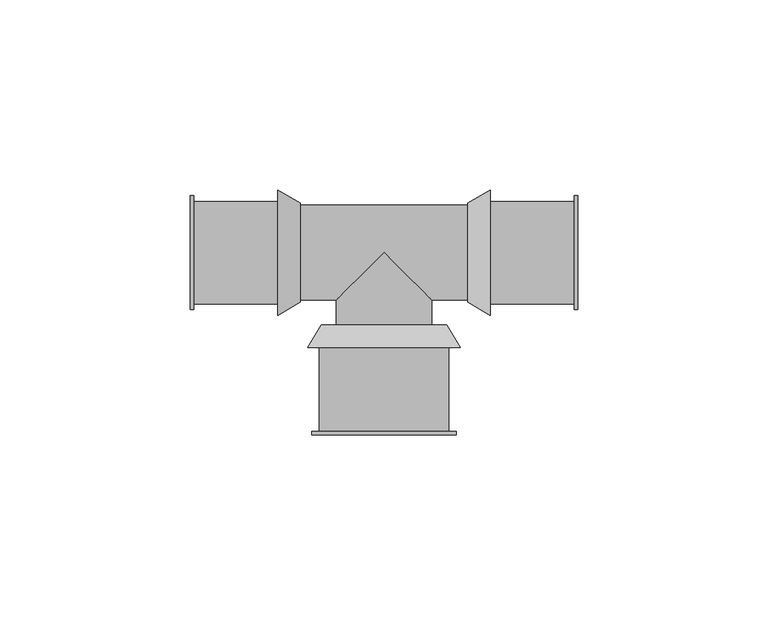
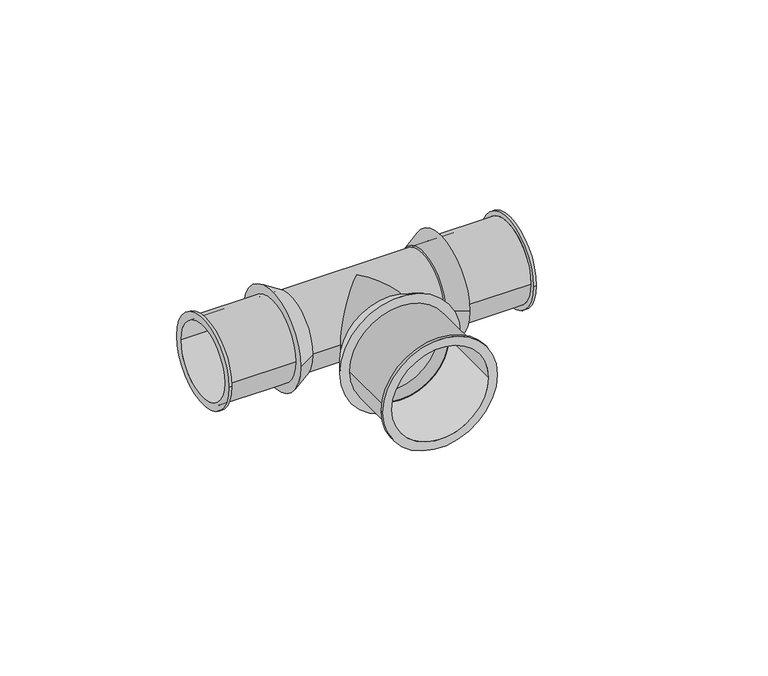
"""IFC4 building model written with IfcOpenShell, lengths in millimetres: pipe fitting geometry, SuperPipe_Tee_SPressPlus : SuperPipe_Tee_SPressPlus."""

from ifc_helpers import new_model, si_unit, point, frame, origin, origin_2d, place, context, project, spatial, polyline, circle_curve, ellipse_curve, trimmed, segment, composite_curve, outline, extrude, source, transform, mapped, element, save
from ifc_brep_helpers import plane_surface, cylinder_surface, revolved_surface, advanced_brep


def pipe_fitting_49668751(model_context):
    return source(origin(), model_context, "Body", "SolidModel", [
        advanced_brep(
        [(-51.0, -15.0, 0.0), (-51.0, 15.0, 0.0), (-51.0, -12.5, 0.0), (-51.0, 12.5, 0.0), (-28.0, -13.5, 0.0), (-28.0, 13.5, 0.0), (-28.0, -12.5, 0.0), (-28.0, 12.5, 0.0), (-50.0, -12.5, 0.0), (-50.0, 12.5, 0.0), (-50.0, 13.5, 0.0), (-50.0, -13.5, 0.0), (-50.0, -15.0, 0.0), (-50.0, 15.0, 0.0)],
        [
            (0, 1, circle_curve(frame((-51.0, 0.0, 0.0), z_axis=(-1.0, 0.0, 0.0), x_axis=(0.0, 1.0, 0.0)), 15.0)),
            (1, 0, circle_curve(frame((-51.0, 0.0, 0.0), z_axis=(-1.0, 0.0, 0.0), x_axis=(0.0, 1.0, 0.0)), 15.0)),
            (2, 3, circle_curve(frame((-51.0, 0.0, 0.0), z_axis=(1.0, 0.0, 0.0), x_axis=(0.0, 1.0, 0.0)), 12.5)),
            (3, 2, circle_curve(frame((-51.0, 0.0, 0.0), z_axis=(1.0, 0.0, 0.0), x_axis=(0.0, 1.0, 0.0)), 12.5)),
            (4, 5, circle_curve(frame((-28.0, 0.0, 0.0), z_axis=(1.0, 0.0, 0.0), x_axis=(0.0, 1.0, 0.0)), 13.5)),
            (5, 4, circle_curve(frame((-28.0, 0.0, 0.0), z_axis=(1.0, 0.0, 0.0), x_axis=(0.0, 1.0, 0.0)), 13.5)),
            (6, 7, circle_curve(frame((-28.0, 0.0, 0.0), z_axis=(-1.0, 0.0, 0.0), x_axis=(0.0, 1.0, 0.0)), 12.5)),
            (7, 6, circle_curve(frame((-28.0, 0.0, 0.0), z_axis=(-1.0, 0.0, 0.0), x_axis=(0.0, 1.0, 0.0)), 12.5)),
            (2, 8),
            (8, 6),
            (7, 9),
            (9, 3),
            (5, 10),
            (10, 11, circle_curve(frame((-50.0, 0.0, 0.0), z_axis=(1.0, 0.0, 0.0), x_axis=(0.0, 1.0, 0.0)), 13.5)),
            (11, 4),
            (11, 10, circle_curve(frame((-50.0, 0.0, 0.0), z_axis=(1.0, 0.0, 0.0), x_axis=(0.0, 1.0, 0.0)), 13.5)),
            (12, 13, circle_curve(frame((-50.0, 0.0, 0.0), z_axis=(1.0, 0.0, 0.0), x_axis=(0.0, 1.0, 0.0)), 15.0)),
            (13, 12, circle_curve(frame((-50.0, 0.0, 0.0), z_axis=(1.0, 0.0, 0.0), x_axis=(0.0, 1.0, 0.0)), 15.0)),
            (0, 12),
            (13, 1),
        ],
        [
            plane_surface(frame((-51.0, 0.0, 0.0), z_axis=(-1.0, 0.0, 0.0), x_axis=(0.0, 0.0, 1.0))),
            plane_surface(frame((-28.0, 0.0, 0.0), z_axis=(1.0, 0.0, 0.0), x_axis=(0.0, 0.0, 1.0))),
            revolved_surface(polyline([(-28.0, 12.5, 0.0), (-51.0, 12.5, 0.0)]), (-51.0, 0.0, 0.0), (1.0, 0.0, 0.0)),
            cylinder_surface(frame((-51.0, 0.0, 0.0), z_axis=(-1.0, 0.0, 0.0), x_axis=(0.0, 1.0, 0.0)), 13.5),
            plane_surface(frame((-50.0, 0.0, 0.0), z_axis=(1.0, 0.0, 0.0), x_axis=(0.0, 0.0, 1.0))),
            cylinder_surface(frame((-51.0, 0.0, 0.0), z_axis=(-1.0, 0.0, 0.0), x_axis=(0.0, 1.0, 0.0)), 15.0),
        ],
        [
            (0, [[1, 2], [3, 4]]),
            (1, [[5, 6], [7, 8]]),
            (2, [[-3, 9, 10, -8, 11, 12]]),
            (2, [[-4, -12, -11, -7, -10, -9]]),
            (3, [[-6, 13, 14, 15]]),
            (3, [[-5, -15, 16, -13]]),
            (4, [[17, 18], [-14, -16]]),
            (5, [[-1, 19, -18, 20]]),
            (5, [[-2, -20, -17, -19]]),
        ],
    ),
        advanced_brep(
        [(28.0, -13.5, 0.0), (28.0, 13.5, 0.0), (28.0, -12.5, 0.0), (28.0, 12.5, 0.0), (51.0, -15.0, 0.0), (51.0, 15.0, 0.0), (51.0, -12.5, 0.0), (51.0, 12.5, 0.0), (50.0, -13.5, 0.0), (50.0, 13.5, 0.0), (50.0, -12.5, 0.0), (50.0, 12.5, 0.0), (50.0, -15.0, 0.0), (50.0, 15.0, 0.0)],
        [
            (0, 1, circle_curve(frame((28.0, 0.0, 0.0), z_axis=(-1.0, 0.0, 0.0), x_axis=(0.0, 1.0, 0.0)), 13.5)),
            (1, 0, circle_curve(frame((28.0, 0.0, 0.0), z_axis=(-1.0, 0.0, 0.0), x_axis=(0.0, 1.0, 0.0)), 13.5)),
            (2, 3, circle_curve(frame((28.0, 0.0, 0.0), z_axis=(1.0, 0.0, 0.0), x_axis=(0.0, 1.0, 0.0)), 12.5)),
            (3, 2, circle_curve(frame((28.0, 0.0, 0.0), z_axis=(1.0, 0.0, 0.0), x_axis=(0.0, 1.0, 0.0)), 12.5)),
            (4, 5, circle_curve(frame((51.0, 0.0, 0.0), z_axis=(1.0, 0.0, 0.0), x_axis=(0.0, 1.0, 0.0)), 15.0)),
            (5, 4, circle_curve(frame((51.0, 0.0, 0.0), z_axis=(1.0, 0.0, 0.0), x_axis=(0.0, 1.0, 0.0)), 15.0)),
            (6, 7, circle_curve(frame((51.0, 0.0, 0.0), z_axis=(-1.0, 0.0, 0.0), x_axis=(0.0, 1.0, 0.0)), 12.5)),
            (7, 6, circle_curve(frame((51.0, 0.0, 0.0), z_axis=(-1.0, 0.0, 0.0), x_axis=(0.0, 1.0, 0.0)), 12.5)),
            (0, 8),
            (8, 9, circle_curve(frame((50.0, 0.0, 0.0), z_axis=(-1.0, 0.0, 0.0), x_axis=(0.0, 1.0, 0.0)), 13.5)),
            (9, 1),
            (9, 8, circle_curve(frame((50.0, 0.0, 0.0), z_axis=(-1.0, 0.0, 0.0), x_axis=(0.0, 1.0, 0.0)), 13.5)),
            (2, 10),
            (10, 6),
            (7, 11),
            (11, 3),
            (12, 13, circle_curve(frame((50.0, 0.0, 0.0), z_axis=(-1.0, 0.0, 0.0), x_axis=(0.0, 1.0, 0.0)), 15.0)),
            (13, 12, circle_curve(frame((50.0, 0.0, 0.0), z_axis=(-1.0, 0.0, 0.0), x_axis=(0.0, 1.0, 0.0)), 15.0)),
            (12, 4),
            (5, 13),
        ],
        [
            plane_surface(frame((28.0, 0.0, 0.0), z_axis=(-1.0, 0.0, 0.0), x_axis=(0.0, 0.0, 1.0))),
            plane_surface(frame((51.0, 0.0, 0.0), z_axis=(1.0, 0.0, 0.0), x_axis=(0.0, 0.0, 1.0))),
            cylinder_surface(frame((28.0, 0.0, 0.0), z_axis=(-1.0, 0.0, 0.0), x_axis=(0.0, 1.0, 0.0)), 13.5),
            revolved_surface(polyline([(51.0, 12.5, 0.0), (28.0, 12.5, 0.0)]), (28.0, 0.0, 0.0), (1.0, 0.0, 0.0)),
            plane_surface(frame((50.0, 0.0, 0.0), z_axis=(-1.0, 0.0, 0.0), x_axis=(0.0, 0.0, 1.0))),
            cylinder_surface(frame((50.0, 0.0, 0.0), z_axis=(-1.0, 0.0, 0.0), x_axis=(0.0, 1.0, 0.0)), 15.0),
        ],
        [
            (0, [[1, 2], [3, 4]]),
            (1, [[5, 6], [7, 8]]),
            (2, [[-1, 9, 10, 11]]),
            (2, [[-2, -11, 12, -9]]),
            (3, [[-3, 13, 14, -8, 15, 16]]),
            (3, [[-4, -16, -15, -7, -14, -13]]),
            (4, [[17, 18], [-10, -12]]),
            (5, [[-17, 19, -6, 20]]),
            (5, [[-18, -20, -5, -19]]),
        ],
    ),
        advanced_brep(
        [(-20.0, -25.0, 0.0), (20.0, -25.0, 0.0), (-16.0, -25.0, 0.0), (16.0, -25.0, 0.0), (-16.5, -19.0, 0.0), (16.5, -19.0, 0.0), (-16.0, -20.0, 0.0), (16.0, -20.0, 0.0)],
        [
            (0, 1, circle_curve(frame((0.0, -25.0, 0.0), z_axis=(0.0, -1.0, 0.0), x_axis=(-1.0, 0.0, 0.0)), 20.0)),
            (1, 0, circle_curve(frame((0.0, -25.0, 0.0), z_axis=(0.0, -1.0, 0.0), x_axis=(1.0, 0.0, 0.0)), 20.0)),
            (2, 3, circle_curve(frame((0.0, -25.0, 0.0), z_axis=(0.0, 1.0, 0.0), x_axis=(1.0, 0.0, 0.0)), 16.0)),
            (3, 2, circle_curve(frame((0.0, -25.0, 0.0), z_axis=(0.0, 1.0, 0.0), x_axis=(1.0, 0.0, 0.0)), 16.0)),
            (4, 5, circle_curve(frame((0.0, -19.0, 0.0), z_axis=(0.0, 1.0, 0.0), x_axis=(1.0, 0.0, 0.0)), 16.5)),
            (5, 4, circle_curve(frame((0.0, -19.0, 0.0), z_axis=(0.0, 1.0, 0.0), x_axis=(-1.0, 0.0, 0.0)), 16.5)),
            (0, 4),
            (5, 1),
            (6, 7, circle_curve(frame((0.0, -20.0, 0.0), z_axis=(0.0, -1.0, 0.0), x_axis=(1.0, 0.0, 0.0)), 16.0)),
            (7, 6, circle_curve(frame((0.0, -20.0, 0.0), z_axis=(0.0, -1.0, 0.0), x_axis=(1.0, 0.0, 0.0)), 16.0)),
            (7, 3),
            (2, 6),
        ],
        [
            plane_surface(frame((0.0, -25.0, 0.0), z_axis=(0.0, -1.0, 0.0), x_axis=(0.0, 0.0, -1.0))),
            plane_surface(frame((0.0, -19.0, 0.0), z_axis=(0.0, 1.0, 0.0), x_axis=(0.0, 0.0, -1.0))),
            revolved_surface(polyline([(16.500000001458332, -19.0, 0.0), (20.0, -25.0, 0.0)]), (0.0, 9.2857143, 0.0), (0.0, -1.0, 0.0)),
            revolved_surface(polyline([(-16.500000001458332, -19.0, 0.0), (-20.0, -25.0, 0.0)]), (0.0, 9.2857143, 0.0), (0.0, -1.0, 0.0)),
            plane_surface(frame((0.0, -20.0, 0.0), z_axis=(0.0, -1.0, 0.0), x_axis=(0.0, 0.0, 1.0))),
            revolved_surface(polyline([(16.0, -20.0, 0.0), (16.0, -25.0, 0.0)]), (0.0, -20.0, 0.0), (0.0, 1.0, 0.0)),
        ],
        [
            (0, [[1, 2], [3, 4]]),
            (1, [[5, 6]]),
            (2, [[-1, 7, -6, 8]]),
            (3, [[-2, -8, -5, -7]]),
            (4, [[9, 10]]),
            (5, [[-10, 11, -3, 12]]),
            (5, [[-9, -12, -4, -11]]),
        ],
    ),
        advanced_brep(
        [(28.0, -16.5, 0.0), (28.0, 16.5, 0.0), (28.0, 12.5, 0.0), (28.0, -12.5, 0.0), (22.0, -13.0, 0.0), (22.0, 13.0, 0.0), (23.0, -12.5, 0.0), (23.0, 12.5, 0.0)],
        [
            (0, 1, circle_curve(frame((28.0, 0.0, 0.0), z_axis=(1.0, 0.0, 0.0), x_axis=(0.0, -1.0, 0.0)), 16.5)),
            (1, 0, circle_curve(frame((28.0, 0.0, 0.0), z_axis=(1.0, 0.0, 0.0), x_axis=(0.0, 1.0, 0.0)), 16.5)),
            (2, 3, circle_curve(frame((28.0, 0.0, 0.0), z_axis=(-1.0, 0.0, 0.0), x_axis=(0.0, 1.0, 0.0)), 12.5)),
            (3, 2, circle_curve(frame((28.0, 0.0, 0.0), z_axis=(-1.0, 0.0, 0.0), x_axis=(0.0, 1.0, 0.0)), 12.5)),
            (4, 5, circle_curve(frame((22.0, 0.0, 0.0), z_axis=(-1.0, 0.0, 0.0), x_axis=(0.0, 1.0, 0.0)), 13.0)),
            (5, 4, circle_curve(frame((22.0, 0.0, 0.0), z_axis=(-1.0, 0.0, 0.0), x_axis=(0.0, -1.0, 0.0)), 13.0)),
            (0, 4),
            (5, 1),
            (6, 7, circle_curve(frame((23.0, 0.0, 0.0), z_axis=(1.0, 0.0, 0.0), x_axis=(0.0, 1.0, 0.0)), 12.5)),
            (7, 6, circle_curve(frame((23.0, 0.0, 0.0), z_axis=(1.0, 0.0, 0.0), x_axis=(0.0, 1.0, 0.0)), 12.5)),
            (6, 3),
            (2, 7),
        ],
        [
            plane_surface(frame((28.0, 0.0, 0.0), z_axis=(1.0, 0.0, 0.0), x_axis=(0.0, 0.0, -1.0))),
            plane_surface(frame((22.0, 0.0, 0.0), z_axis=(-1.0, 0.0, 0.0), x_axis=(0.0, 0.0, -1.0))),
            revolved_surface(polyline([(22.0, 13.000000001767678, 0.0), (28.0, 16.5, 0.0)]), (-0.2857143, 0.0, 0.0), (1.0, 0.0, 0.0)),
            revolved_surface(polyline([(22.0, -13.000000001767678, 0.0), (28.0, -16.5, 0.0)]), (-0.2857143, 0.0, 0.0), (1.0, 0.0, 0.0)),
            plane_surface(frame((23.0, 12.5, 0.0), z_axis=(1.0, 0.0, 0.0), x_axis=(0.0, 0.0, -1.0))),
            revolved_surface(polyline([(28.0, 12.5, 0.0), (23.0, 12.5, 0.0)]), (23.0, 0.0, 0.0), (1.0, 0.0, 0.0)),
        ],
        [
            (0, [[1, 2], [3, 4]]),
            (1, [[5, 6]]),
            (2, [[-1, 7, -6, 8]]),
            (3, [[-2, -8, -5, -7]]),
            (4, [[9, 10]]),
            (5, [[-9, 11, -3, 12]]),
            (5, [[-10, -12, -4, -11]]),
        ],
    ),
        advanced_brep(
        [(-22.0, -13.0, 0.0), (-22.0, 13.0, 0.0), (-28.0, -16.5, 0.0), (-28.0, 16.5, 0.0), (-28.0, -12.5, 0.0), (-28.0, 12.5, 0.0), (-23.0, -12.5, 0.0), (-23.0, 12.5, 0.0)],
        [
            (0, 1, circle_curve(frame((-22.0, 0.0, 0.0), z_axis=(1.0, 0.0, 0.0), x_axis=(0.0, -1.0, 0.0)), 13.0)),
            (1, 0, circle_curve(frame((-22.0, 0.0, 0.0), z_axis=(1.0, 0.0, 0.0), x_axis=(0.0, 1.0, 0.0)), 13.0)),
            (2, 3, circle_curve(frame((-28.0, 0.0, 0.0), z_axis=(-1.0, 0.0, 0.0), x_axis=(0.0, 1.0, 0.0)), 16.5)),
            (3, 2, circle_curve(frame((-28.0, 0.0, 0.0), z_axis=(-1.0, 0.0, 0.0), x_axis=(0.0, -1.0, 0.0)), 16.5)),
            (4, 5, circle_curve(frame((-28.0, 0.0, 0.0), z_axis=(1.0, 0.0, 0.0), x_axis=(0.0, 1.0, 0.0)), 12.5)),
            (5, 4, circle_curve(frame((-28.0, 0.0, 0.0), z_axis=(1.0, 0.0, 0.0), x_axis=(0.0, 1.0, 0.0)), 12.5)),
            (0, 2),
            (3, 1),
            (6, 7, circle_curve(frame((-23.0, 0.0, 0.0), z_axis=(-1.0, 0.0, 0.0), x_axis=(0.0, 1.0, 0.0)), 12.5)),
            (7, 6, circle_curve(frame((-23.0, 0.0, 0.0), z_axis=(-1.0, 0.0, 0.0), x_axis=(0.0, 1.0, 0.0)), 12.5)),
            (7, 5),
            (4, 6),
        ],
        [
            plane_surface(frame((-22.0, 0.0, 0.0), z_axis=(1.0, 0.0, 0.0), x_axis=(0.0, 0.0, -1.0))),
            plane_surface(frame((-28.0, 0.0, 0.0), z_axis=(-1.0, 0.0, 0.0), x_axis=(0.0, 0.0, -1.0))),
            revolved_surface(polyline([(-22.0, -13.000000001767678, 0.0), (-28.0, -16.5, 0.0)]), (0.2857143, 0.0, 0.0), (-1.0, 0.0, 0.0)),
            revolved_surface(polyline([(-22.0, 13.000000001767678, 0.0), (-28.0, 16.5, 0.0)]), (0.2857143, 0.0, 0.0), (-1.0, 0.0, 0.0)),
            plane_surface(frame((-23.0, 12.5, 0.0), z_axis=(-1.0, 0.0, 0.0), x_axis=(0.0, 0.0, 1.0))),
            revolved_surface(polyline([(-23.0, 12.5, 0.0), (-28.0, 12.5, 0.0)]), (-28.0, 0.0, 0.0), (1.0, 0.0, 0.0)),
        ],
        [
            (0, [[1, 2]]),
            (1, [[3, 4], [5, 6]]),
            (2, [[-1, 7, -4, 8]]),
            (3, [[-2, -8, -3, -7]]),
            (4, [[9, 10]]),
            (5, [[-10, 11, -5, 12]]),
            (5, [[-9, -12, -6, -11]]),
        ],
    ),
        advanced_brep(
        [(-12.5, -19.0, 0.0), (12.5, -19.0, 0.0), (12.5, -12.5, 0.0), (0.0, 0.0, 12.5), (-12.5, -12.5, 0.0), (0.0, 0.0, -12.5)],
        [
            (0, 1, circle_curve(frame((0.0, -19.0, 0.0), z_axis=(0.0, -1.0, 0.0), x_axis=(1.0, 0.0, 0.0)), 12.5)),
            (1, 0, circle_curve(frame((0.0, -19.0, 0.0), z_axis=(0.0, -1.0, 0.0), x_axis=(1.0, 0.0, 0.0)), 12.5)),
            (1, 2),
            (2, 3, ellipse_curve(frame((0.0, 0.0, 0.0), z_axis=(-0.7071067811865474, -0.7071067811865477, 0.0), x_axis=(-0.7071067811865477, 0.7071067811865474, 0.0)), 17.6776695, 12.5)),
            (3, 4, ellipse_curve(frame((0.0, 0.0, 0.0), z_axis=(0.7071067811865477, -0.7071067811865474, 0.0), x_axis=(0.7071067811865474, 0.7071067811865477, 0.0)), 17.6776695, 12.5)),
            (4, 0),
            (4, 5, ellipse_curve(frame((0.0, 0.0, 0.0), z_axis=(0.7071067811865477, -0.7071067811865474, 0.0), x_axis=(0.7071067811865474, 0.7071067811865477, 0.0)), 17.6776695, 12.5)),
            (5, 2, ellipse_curve(frame((0.0, 0.0, 0.0), z_axis=(-0.7071067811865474, -0.7071067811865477, 0.0), x_axis=(-0.7071067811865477, 0.7071067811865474, 0.0)), 17.6776695, 12.5)),
            (2, 4),
        ],
        [
            plane_surface(frame((0.0, -19.0, 0.0), z_axis=(0.0, -1.0, 0.0), x_axis=(0.0, 0.0, 1.0))),
            cylinder_surface(frame((0.0, 0.0, 0.0), z_axis=(0.0, 1.0, 0.0), x_axis=(1.0, 0.0, 0.0)), 12.5),
            revolved_surface(polyline([(-12.5, 12.5, 0.0), (12.5, 12.5, 0.0)]), (-107.8358145, 0.0, 0.0), (-1.0, 0.0, 0.0)),
        ],
        [
            (0, [[1, 2]]),
            (1, [[-2, 3, 4, 5, 6]]),
            (1, [[-1, -6, 7, 8, -3]]),
            (2, [[9, -5, -4]]),
            (2, [[-9, -8, -7]]),
        ],
    ),
        advanced_brep(
        [(-17.0, -25.0, 0.0), (17.0, -25.0, 0.0), (-16.0, -25.0, 0.0), (16.0, -25.0, 0.0), (-19.0, -48.0, 0.0), (19.0, -48.0, 0.0), (-16.0, -48.0, 0.0), (16.0, -48.0, 0.0), (-17.0, -47.0, 0.0), (17.0, -47.0, 0.0), (-19.0, -47.0, 0.0), (19.0, -47.0, 0.0)],
        [
            (0, 1, circle_curve(frame((0.0, -25.0, 0.0), z_axis=(0.0, 1.0, 0.0), x_axis=(1.0, 0.0, 0.0)), 17.0)),
            (1, 0, circle_curve(frame((0.0, -25.0, 0.0), z_axis=(0.0, 1.0, 0.0), x_axis=(1.0, 0.0, 0.0)), 17.0)),
            (2, 3, circle_curve(frame((0.0, -25.0, 0.0), z_axis=(0.0, -1.0, 0.0), x_axis=(1.0, 0.0, 0.0)), 16.0)),
            (3, 2, circle_curve(frame((0.0, -25.0, 0.0), z_axis=(0.0, -1.0, 0.0), x_axis=(1.0, 0.0, 0.0)), 16.0)),
            (4, 5, circle_curve(frame((0.0, -48.0, 0.0), z_axis=(0.0, -1.0, 0.0), x_axis=(1.0, 0.0, 0.0)), 19.0)),
            (5, 4, circle_curve(frame((0.0, -48.0, 0.0), z_axis=(0.0, -1.0, 0.0), x_axis=(1.0, 0.0, 0.0)), 19.0)),
            (6, 7, circle_curve(frame((0.0, -48.0, 0.0), z_axis=(0.0, 1.0, 0.0), x_axis=(1.0, 0.0, 0.0)), 16.0)),
            (7, 6, circle_curve(frame((0.0, -48.0, 0.0), z_axis=(0.0, 1.0, 0.0), x_axis=(1.0, 0.0, 0.0)), 16.0)),
            (2, 6),
            (7, 3),
            (0, 8),
            (8, 9, circle_curve(frame((0.0, -47.0, 0.0), z_axis=(0.0, 1.0, 0.0), x_axis=(1.0, 0.0, 0.0)), 17.0)),
            (9, 1),
            (9, 8, circle_curve(frame((0.0, -47.0, 0.0), z_axis=(0.0, 1.0, 0.0), x_axis=(1.0, 0.0, 0.0)), 17.0)),
            (10, 11, circle_curve(frame((0.0, -47.0, 0.0), z_axis=(0.0, 1.0, 0.0), x_axis=(1.0, 0.0, 0.0)), 19.0)),
            (11, 10, circle_curve(frame((0.0, -47.0, 0.0), z_axis=(0.0, 1.0, 0.0), x_axis=(1.0, 0.0, 0.0)), 19.0)),
            (10, 4),
            (5, 11),
        ],
        [
            plane_surface(frame((0.0, -25.0, 0.0), z_axis=(0.0, 1.0, 0.0), x_axis=(0.0, 0.0, 1.0))),
            plane_surface(frame((0.0, -48.0, 0.0), z_axis=(0.0, -1.0, 0.0), x_axis=(0.0, 0.0, 1.0))),
            revolved_surface(polyline([(16.0, -48.0, 0.0), (16.0, -25.0, 0.0)]), (0.0, -25.0, 0.0), (0.0, -1.0, 0.0)),
            cylinder_surface(frame((0.0, -25.0, 0.0), z_axis=(0.0, 1.0, 0.0), x_axis=(1.0, 0.0, 0.0)), 17.0),
            plane_surface(frame((0.0, -47.0, 0.0), z_axis=(0.0, 1.0, 0.0), x_axis=(0.0, 0.0, 1.0))),
            cylinder_surface(frame((0.0, -47.0, 0.0), z_axis=(0.0, 1.0, 0.0), x_axis=(1.0, 0.0, 0.0)), 19.0),
        ],
        [
            (0, [[1, 2], [3, 4]]),
            (1, [[5, 6], [7, 8]]),
            (2, [[-3, 9, -8, 10]]),
            (2, [[-4, -10, -7, -9]]),
            (3, [[-1, 11, 12, 13]]),
            (3, [[-2, -13, 14, -11]]),
            (4, [[15, 16], [-12, -14]]),
            (5, [[-15, 17, -6, 18]]),
            (5, [[-16, -18, -5, -17]]),
        ],
    ),
        extrude(outline(composite_curve([segment(trimmed(circle_curve(origin_2d(), 12.5), [point((-12.5, 0.0))], [point((12.5, 0.0))], False, "CARTESIAN"), True, "CONTINUOUS"), segment(trimmed(circle_curve(origin_2d(), 12.5), [point((12.5, 0.0))], [point((-12.5, 0.0))], False, "CARTESIAN"), True, "CONTINUOUS")], self_intersect=False)), frame((-22.0, 0.0, 0.0), z_axis=(1.0, 0.0, 0.0), x_axis=(0.0, 1.0, 0.0)), (0.0, 0.0, 1.0), 44.0),
    ])


if __name__ == "__main__":
    model = new_model("IFC4")
    model_context = context("Model", 3, world=origin())
    ifc_project = project(units=[si_unit("LENGTHUNIT", "METRE", prefix="MILLI")], contexts=[model_context])
    site = spatial("IfcSite", under=ifc_project)
    building = spatial("IfcBuilding", under=site)
    placement = place(None, origin())
    pipe_fitting_shape = pipe_fitting_49668751(model_context)
    element("IfcPipeFitting", 1, ObjectType="SuperPipe_Tee_SPressPlus : SuperPipe_Tee_SPressPlus", at=placement, inside=building, context=model_context, shape_type="MappedRepresentation", body=[
        mapped(pipe_fitting_shape, transform((0.0, 0.0, 0.0), x_axis=(1.0, 0.0, 0.0), y_axis=(0.0, 1.0, 0.0), z_axis=(0.0, 0.0, 1.0))),
    ])
    save(model, "model.ifc")
